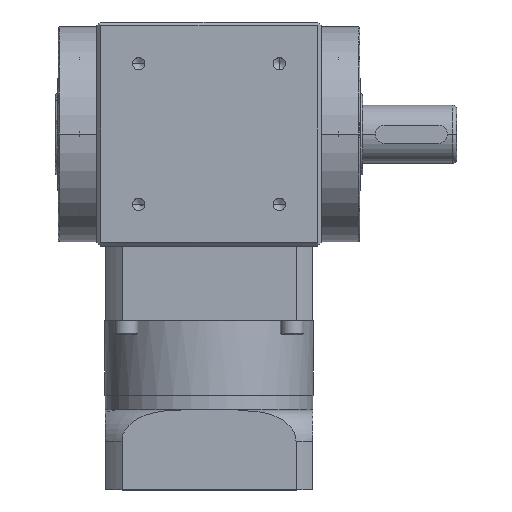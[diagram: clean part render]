
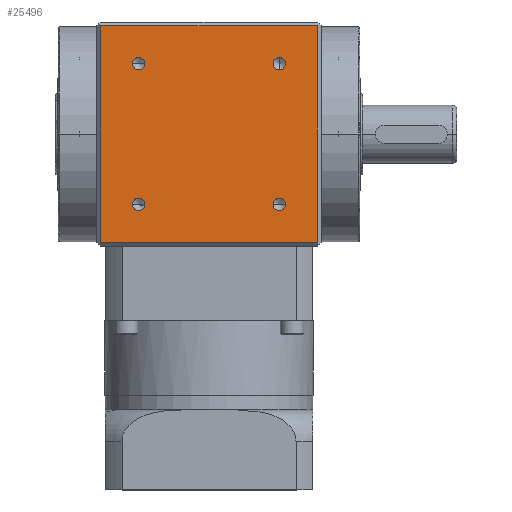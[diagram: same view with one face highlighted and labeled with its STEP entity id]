
A CAD part, top view. The second image highlights one B-rep face of the part: STEP entity #25496.
In plain terms, the highlighted planar face has unit normal (0, 0, 1).
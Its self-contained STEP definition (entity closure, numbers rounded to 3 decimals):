
#364 = DIRECTION ( 'NONE',  ( 0., -1., 0. ) ) ;
#696 = EDGE_CURVE ( 'NONE', #18218, #20130, #11954, .T. ) ;
#1284 = DIRECTION ( 'NONE',  ( 0., 0., -1. ) ) ;
#1403 = VERTEX_POINT ( 'NONE', #19873 ) ;
#1434 = DIRECTION ( 'NONE',  ( 0., 1., 0. ) ) ;
#1476 = VERTEX_POINT ( 'NONE', #22352 ) ;
#1909 = CIRCLE ( 'NONE', #27867, 3.4 ) ;
#2574 = CARTESIAN_POINT ( 'NONE',  ( -38.891, 154.009, 62. ) ) ;
#3424 = DIRECTION ( 'NONE',  ( 0., 0., 1. ) ) ;
#3628 = CARTESIAN_POINT ( 'NONE',  ( -59.887, 256.3, 62. ) ) ;
#3650 = FACE_BOUND ( 'NONE', #22554, .T. ) ;
#3900 = ORIENTED_EDGE ( 'NONE', *, *, #21141, .F. ) ;
#4283 = CARTESIAN_POINT ( 'NONE',  ( -75., 136.3, 62. ) ) ;
#4315 = CIRCLE ( 'NONE', #18170, 3.4 ) ;
#4629 = LINE ( 'NONE', #4283, #15553 ) ;
#4839 = LINE ( 'NONE', #23655, #9273 ) ;
#5138 = AXIS2_PLACEMENT_3D ( 'NONE', #14349, #1284, #16548 ) ;
#5609 = EDGE_CURVE ( 'NONE', #6622, #23199, #27357, .T. ) ;
#5787 = CARTESIAN_POINT ( 'NONE',  ( 38.891, 160.809, 62. ) ) ;
#6205 = ORIENTED_EDGE ( 'NONE', *, *, #16929, .F. ) ;
#6622 = VERTEX_POINT ( 'NONE', #20171 ) ;
#6979 = CARTESIAN_POINT ( 'NONE',  ( -38.891, 235.191, 62. ) ) ;
#6987 = EDGE_CURVE ( 'NONE', #1403, #25054, #13924, .T. ) ;
#7006 = ORIENTED_EDGE ( 'NONE', *, *, #17769, .F. ) ;
#7420 = CARTESIAN_POINT ( 'NONE',  ( -38.891, 235.191, 62. ) ) ;
#7488 = AXIS2_PLACEMENT_3D ( 'NONE', #7420, #22740, #9651 ) ;
#8083 = DIRECTION ( 'NONE',  ( 0., 0., 1. ) ) ;
#8976 = ORIENTED_EDGE ( 'NONE', *, *, #696, .F. ) ;
#9191 = DIRECTION ( 'NONE',  ( 0., -1., 0. ) ) ;
#9273 = VECTOR ( 'NONE', #28049, 1000. ) ;
#9651 = DIRECTION ( 'NONE',  ( 0., -1., 0. ) ) ;
#9893 = ORIENTED_EDGE ( 'NONE', *, *, #6987, .F. ) ;
#9926 = VECTOR ( 'NONE', #14522, 1000. ) ;
#10425 = EDGE_LOOP ( 'NONE', ( #27207, #8976 ) ) ;
#10492 = CARTESIAN_POINT ( 'NONE',  ( 38.891, 235.191, 62. ) ) ;
#10842 = CARTESIAN_POINT ( 'NONE',  ( -38.891, 231.791, 62. ) ) ;
#10877 = DIRECTION ( 'NONE',  ( -1., 0., 0. ) ) ;
#11102 = CIRCLE ( 'NONE', #11214, 3.4 ) ;
#11202 = CIRCLE ( 'NONE', #17967, 3.4 ) ;
#11214 = AXIS2_PLACEMENT_3D ( 'NONE', #6979, #22277, #9191 ) ;
#11611 = DIRECTION ( 'NONE',  ( 0., 0., 1. ) ) ;
#11742 = CARTESIAN_POINT ( 'NONE',  ( 38.891, 235.191, 62. ) ) ;
#11954 = CIRCLE ( 'NONE', #12398, 3.4 ) ;
#12334 = CARTESIAN_POINT ( 'NONE',  ( 59.887, 0., 62. ) ) ;
#12398 = AXIS2_PLACEMENT_3D ( 'NONE', #16503, #3424, #18731 ) ;
#12437 = LINE ( 'NONE', #14520, #23366 ) ;
#12500 = ORIENTED_EDGE ( 'NONE', *, *, #5609, .F. ) ;
#12690 = DIRECTION ( 'NONE',  ( 0., -1., 0. ) ) ;
#13175 = EDGE_CURVE ( 'NONE', #14786, #6622, #4839, .T. ) ;
#13477 = DIRECTION ( 'NONE',  ( 0., 0., 1. ) ) ;
#13922 = DIRECTION ( 'NONE',  ( 0., -1., 0. ) ) ;
#13924 = CIRCLE ( 'NONE', #28102, 3.4 ) ;
#14049 = ORIENTED_EDGE ( 'NONE', *, *, #25362, .F. ) ;
#14349 = CARTESIAN_POINT ( 'NONE',  ( -75., 258.3, 62. ) ) ;
#14520 = CARTESIAN_POINT ( 'NONE',  ( -59.887, 0., 62. ) ) ;
#14522 = DIRECTION ( 'NONE',  ( 0., -1., 0. ) ) ;
#14786 = VERTEX_POINT ( 'NONE', #3628 ) ;
#15259 = FACE_BOUND ( 'NONE', #16972, .T. ) ;
#15553 = VECTOR ( 'NONE', #10877, 1000. ) ;
#15854 = ORIENTED_EDGE ( 'NONE', *, *, #22032, .F. ) ;
#15914 = ORIENTED_EDGE ( 'NONE', *, *, #13175, .F. ) ;
#16207 = CARTESIAN_POINT ( 'NONE',  ( -59.887, 136.3, 62. ) ) ;
#16297 = AXIS2_PLACEMENT_3D ( 'NONE', #11742, #27022, #13922 ) ;
#16496 = EDGE_LOOP ( 'NONE', ( #12500, #15914, #7006, #27136 ) ) ;
#16503 = CARTESIAN_POINT ( 'NONE',  ( 38.891, 157.409, 62. ) ) ;
#16540 = EDGE_CURVE ( 'NONE', #20130, #18218, #4315, .T. ) ;
#16548 = DIRECTION ( 'NONE',  ( 0., 1., 0. ) ) ;
#16562 = CIRCLE ( 'NONE', #16297, 3.4 ) ;
#16611 = CIRCLE ( 'NONE', #7488, 3.4 ) ;
#16929 = EDGE_CURVE ( 'NONE', #1476, #27493, #1909, .T. ) ;
#16972 = EDGE_LOOP ( 'NONE', ( #23967, #15854 ) ) ;
#17769 = EDGE_CURVE ( 'NONE', #21186, #14786, #12437, .T. ) ;
#17967 = AXIS2_PLACEMENT_3D ( 'NONE', #24694, #11611, #26897 ) ;
#18170 = AXIS2_PLACEMENT_3D ( 'NONE', #26589, #13477, #364 ) ;
#18218 = VERTEX_POINT ( 'NONE', #5787 ) ;
#18683 = PLANE ( 'NONE',  #5138 ) ;
#18731 = DIRECTION ( 'NONE',  ( 0., -1., 0. ) ) ;
#18767 = CARTESIAN_POINT ( 'NONE',  ( -38.891, 238.591, 62. ) ) ;
#18881 = CARTESIAN_POINT ( 'NONE',  ( 38.891, 154.009, 62. ) ) ;
#19873 = CARTESIAN_POINT ( 'NONE',  ( 38.891, 238.591, 62. ) ) ;
#20130 = VERTEX_POINT ( 'NONE', #18881 ) ;
#20171 = CARTESIAN_POINT ( 'NONE',  ( 59.887, 256.3, 62. ) ) ;
#20921 = EDGE_CURVE ( 'NONE', #23199, #21186, #4629, .T. ) ;
#21141 = EDGE_CURVE ( 'NONE', #25054, #1403, #16562, .T. ) ;
#21175 = CARTESIAN_POINT ( 'NONE',  ( -38.891, 157.409, 62. ) ) ;
#21186 = VERTEX_POINT ( 'NONE', #16207 ) ;
#21511 = CARTESIAN_POINT ( 'NONE',  ( 59.887, 136.3, 62. ) ) ;
#21556 = VERTEX_POINT ( 'NONE', #10842 ) ;
#21768 = FACE_OUTER_BOUND ( 'NONE', #16496, .T. ) ;
#22032 = EDGE_CURVE ( 'NONE', #26855, #21556, #11102, .T. ) ;
#22277 = DIRECTION ( 'NONE',  ( 0., 0., 1. ) ) ;
#22352 = CARTESIAN_POINT ( 'NONE',  ( -38.891, 160.809, 62. ) ) ;
#22554 = EDGE_LOOP ( 'NONE', ( #14049, #6205 ) ) ;
#22740 = DIRECTION ( 'NONE',  ( 0., 0., 1. ) ) ;
#23199 = VERTEX_POINT ( 'NONE', #21511 ) ;
#23366 = VECTOR ( 'NONE', #1434, 1000. ) ;
#23379 = DIRECTION ( 'NONE',  ( 0., -1., 0. ) ) ;
#23655 = CARTESIAN_POINT ( 'NONE',  ( -75., 256.3, 62. ) ) ;
#23967 = ORIENTED_EDGE ( 'NONE', *, *, #25757, .F. ) ;
#24019 = EDGE_LOOP ( 'NONE', ( #3900, #9893 ) ) ;
#24694 = CARTESIAN_POINT ( 'NONE',  ( -38.891, 157.409, 62. ) ) ;
#25054 = VERTEX_POINT ( 'NONE', #25316 ) ;
#25316 = CARTESIAN_POINT ( 'NONE',  ( 38.891, 231.791, 62. ) ) ;
#25362 = EDGE_CURVE ( 'NONE', #27493, #1476, #11202, .T. ) ;
#25496 = ADVANCED_FACE ( 'NONE', ( #15259, #26228, #26914, #3650, #21768 ), #18683, .F. ) ;
#25757 = EDGE_CURVE ( 'NONE', #21556, #26855, #16611, .T. ) ;
#25779 = DIRECTION ( 'NONE',  ( 0., 0., 1. ) ) ;
#26228 = FACE_BOUND ( 'NONE', #24019, .T. ) ;
#26589 = CARTESIAN_POINT ( 'NONE',  ( 38.891, 157.409, 62. ) ) ;
#26855 = VERTEX_POINT ( 'NONE', #18767 ) ;
#26897 = DIRECTION ( 'NONE',  ( 0., -1., 0. ) ) ;
#26914 = FACE_BOUND ( 'NONE', #10425, .T. ) ;
#27022 = DIRECTION ( 'NONE',  ( 0., 0., 1. ) ) ;
#27136 = ORIENTED_EDGE ( 'NONE', *, *, #20921, .F. ) ;
#27207 = ORIENTED_EDGE ( 'NONE', *, *, #16540, .F. ) ;
#27357 = LINE ( 'NONE', #12334, #9926 ) ;
#27493 = VERTEX_POINT ( 'NONE', #2574 ) ;
#27867 = AXIS2_PLACEMENT_3D ( 'NONE', #21175, #8083, #23379 ) ;
#28049 = DIRECTION ( 'NONE',  ( 1., 0., 0. ) ) ;
#28102 = AXIS2_PLACEMENT_3D ( 'NONE', #10492, #25779, #12690 ) ;
